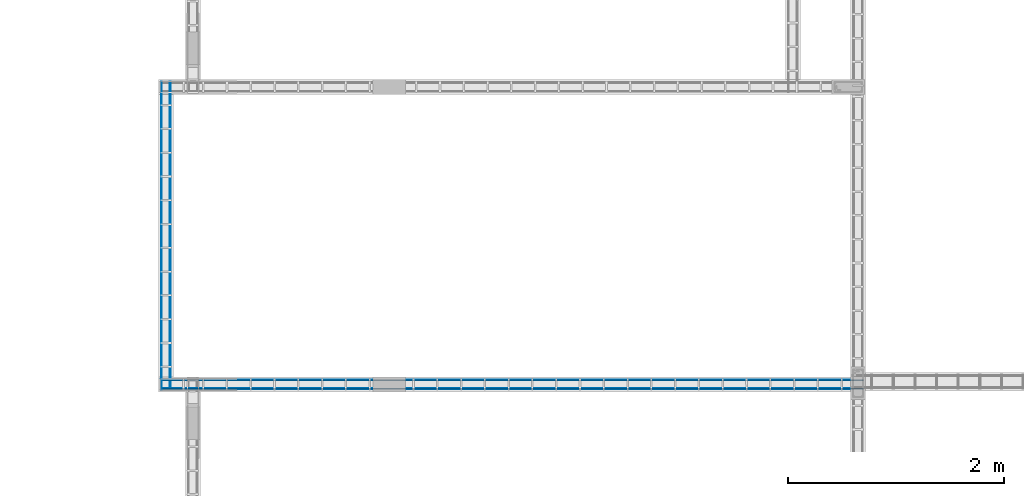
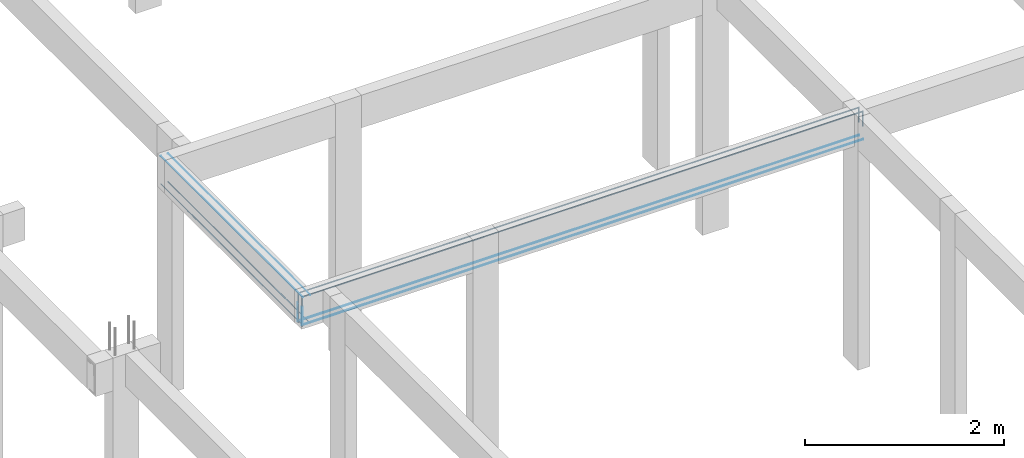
# One storey, part 22 of 236: 8 reinforcing bars.
"""IFC4 building model written with IfcOpenShell, lengths in centimetres."""

from ifc_helpers import new_model, entity, si_unit, derived_unit, frame, origin_with_axes, place, context, project, spatial, element, save


model = new_model("IFC4")

# Units and contexts
model_context = context("Model", 3, precision=1e-05, world=origin_with_axes(), identifier="Body")
ifc_project = project(units=[si_unit("LENGTHUNIT", "METRE", prefix="CENTI"), si_unit("VOLUMEUNIT", "CUBIC_METRE"), si_unit("AREAUNIT", "SQUARE_METRE"), si_unit("POWERUNIT", "WATT"), si_unit("LUMINOUSFLUXUNIT", "LUMEN"), si_unit("ELECTRICCURRENTUNIT", "AMPERE"), si_unit("PRESSUREUNIT", "PASCAL", prefix="KILO"), si_unit("MASSUNIT", "GRAM", prefix="KILO"), si_unit("PLANEANGLEUNIT", "RADIAN"), derived_unit("VOLUMETRICFLOWRATEUNIT", [(si_unit("LENGTHUNIT", "METRE"), 3), (si_unit("TIMEUNIT", "SECOND"), -1)])], contexts=[model_context])

# Site, building, storey
site_placement = place(None, frame((-4000.0, 0.0, 0.0), z_axis=(0.0, 0.0, 1.0), x_axis=(1.0, 0.0, 0.0)))
site = spatial("IfcSite", under=ifc_project, at=site_placement, Name="PADRÃO")
building_placement = place(site_placement, frame((0.0, 0.0, -14.0)))
building = spatial("IfcBuilding", under=site, at=building_placement, Name="CRECHE PRÉ-ESCOLA TIPO 2")
placement_1 = place(building_placement, origin_with_axes())
placement_2 = place(placement_1, frame((0.0, 0.0, 30.0), z_axis=(0.0, 0.0, 1.0), x_axis=(1.0, 0.0, 0.0)))
storey_placement = place(placement_2, frame((0.0, 0.0, 310.0), z_axis=(0.0, 0.0, 1.0), x_axis=(1.0, 0.0, 0.0)))
storey = spatial("IfcBuildingStorey", under=building, at=storey_placement, Name="TERREO", CompositionType="ELEMENT", Elevation=326.0)

# Reinforcing bars
for number, where, z_axis, x_axis, name in (
    (1, (798.703124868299, 1031.61, -14.8022873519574), (0.0, 0.0, 1.0), (1.0, 0.0, 0.0), "V246 - Longitudinal inferior"),
    (2, (798.703124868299, 1023.41, -14.8022873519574), (0.0, 0.0, 1.0), (1.0, 0.0, 0.0), "V246 - Longitudinal inferior"),
):
    element("IfcReinforcingBar", number, at=place(storey_placement, frame(where, z_axis=z_axis, x_axis=x_axis)), inside=storey, Name=name, BarLength=0.0, CrossSectionArea=5.0265482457e-05, NominalDiameter=0.8, PredefinedType="MAIN", context=model_context, shape_type="AdvancedSweptSolid", body=[
        entity("IfcSweptDiskSolid", entity("IfcCompositeCurve", [entity("IfcCompositeCurveSegment", "CONTINUOUS", True, entity("IfcPolyline", [entity("IfcCartesianPoint", [-324.6131248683, 0.0, 0.0]), entity("IfcCartesianPoint", [-324.6131248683, 0.0, -22.2977126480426])])), entity("IfcCompositeCurveSegment", "CONTINUOUS", True, entity("IfcPolyline", [entity("IfcCartesianPoint", [-324.6131248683, 0.0, -22.2977126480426]), entity("IfcCartesianPoint", [325.016875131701, 0.0, -22.2977126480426])]))], False), 0.4),
    ])
for number, where, z_axis, x_axis, name in (
    (3, (798.705, 1023.51, -2.49531217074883), (0.0, 0.0, 1.0), (1.0, 0.0, 0.0), "V246 - Longitudinal superior"),
    (4, (798.705, 1031.51, -2.49531217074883), (0.0, 0.0, 1.0), (1.0, 0.0, 0.0), "V246 - Longitudinal superior"),
):
    element("IfcReinforcingBar", number, at=place(storey_placement, frame(where, z_axis=z_axis, x_axis=x_axis)), inside=storey, Name=name, BarLength=0.0, CrossSectionArea=7.853981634e-05, NominalDiameter=1.0, PredefinedType="MAIN", context=model_context, shape_type="AdvancedSweptSolid", body=[
        entity("IfcSweptDiskSolid", entity("IfcCompositeCurve", [entity("IfcCompositeCurveSegment", "CONTINUOUS", True, entity("IfcPolyline", [entity("IfcCartesianPoint", [-324.515, 0.0, -36.5046878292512]), entity("IfcCartesianPoint", [-324.515, 0.0, -0.504687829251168])])), entity("IfcCompositeCurveSegment", "CONTINUOUS", True, entity("IfcPolyline", [entity("IfcCartesianPoint", [-324.515, 0.0, -0.504687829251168]), entity("IfcCartesianPoint", [324.515, 0.0, -0.504687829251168])])), entity("IfcCompositeCurveSegment", "CONTINUOUS", True, entity("IfcPolyline", [entity("IfcCartesianPoint", [324.515, 0.0, -0.504687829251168]), entity("IfcCartesianPoint", [324.515, 0.0, -18.3428579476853])]))], False), 0.5),
    ])
for number, where, z_axis, x_axis, name in (
    (5, (482.94, 1165.005, -2.5), (0.0, 0.0, 1.0), (1.0, 0.0, 0.0), "V267 - Longitudinal construtiva"),
    (6, (474.44, 1165.005, -2.5), (0.0, 0.0, 1.0), (1.0, 0.0, 0.0), "V267 - Longitudinal construtiva"),
):
    element("IfcReinforcingBar", number, at=place(storey_placement, frame(where, z_axis=z_axis, x_axis=x_axis)), inside=storey, Name=name, BarLength=0.0, CrossSectionArea=1.9634954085e-05, NominalDiameter=0.5, PredefinedType="MAIN", context=model_context, shape_type="AdvancedSweptSolid", body=[
        entity("IfcSweptDiskSolid", entity("IfcCompositeCurve", [entity("IfcCompositeCurveSegment", "CONTINUOUS", True, entity("IfcPolyline", [entity("IfcCartesianPoint", [0.0, -142.495, -0.25]), entity("IfcCartesianPoint", [0.0, 142.495, -0.25])]))], False), 0.25),
    ])
for number, where, z_axis, x_axis, name in (
    (7, (474.59, 1165.005, -36.7), (0.0, 0.0, 1.0), (1.0, 0.0, 0.0), "V267 - Longitudinal inferior"),
    (8, (482.79, 1165.005, -36.7), (0.0, 0.0, 1.0), (1.0, 0.0, 0.0), "V267 - Longitudinal inferior"),
):
    element("IfcReinforcingBar", number, at=place(storey_placement, frame(where, z_axis=z_axis, x_axis=x_axis)), inside=storey, Name=name, BarLength=0.0, CrossSectionArea=5.0265482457e-05, NominalDiameter=0.8, PredefinedType="MAIN", context=model_context, shape_type="AdvancedSweptSolid", body=[
        entity("IfcSweptDiskSolid", entity("IfcCompositeCurve", [entity("IfcCompositeCurveSegment", "CONTINUOUS", True, entity("IfcPolyline", [entity("IfcCartesianPoint", [0.0, -142.495, -0.4]), entity("IfcCartesianPoint", [0.0, 142.495, -0.4])]))], False), 0.4),
    ])

save(model, "model.ifc")
